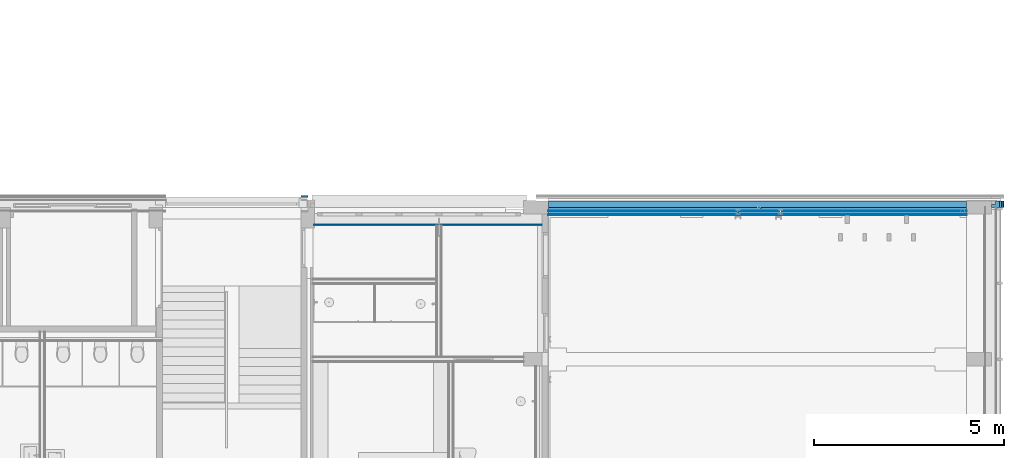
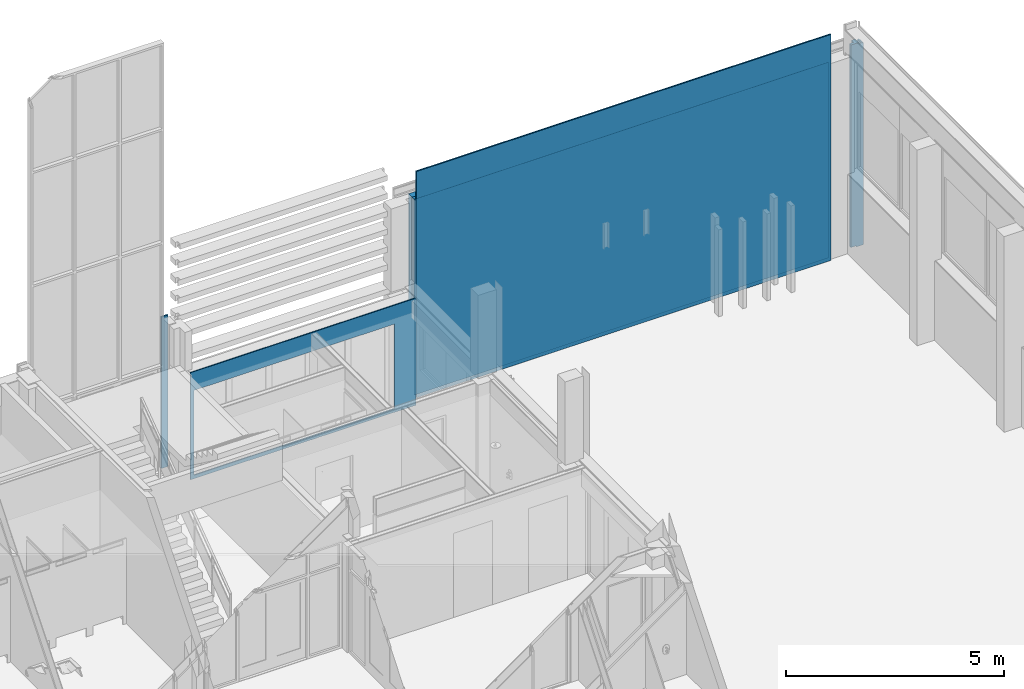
# One storey, part 82 of 109: 9 building element parts, 1 opening, 4 elements without a shape of their own.
"""IFC2X3 building model written with IfcOpenShell, lengths in millimetres."""

from ifc_helpers import new_model, entity, si_unit, converted_unit, derived_unit, money_unit, direction, frame, origin_with_axes, place, context, subcontext, project, spatial, faceted_brep, material, type_object, element, aggregate, save


model = new_model("IFC2X3")

# Units and contexts
model_context = context("Model", 3, precision=0.01, world=origin_with_axes(), true_north=direction((0.0, 1.0)))
body_context = subcontext(model_context, "Body", "Model", "MODEL_VIEW")
ifc_project = project(units=[si_unit("LENGTHUNIT", "METRE", prefix="MILLI"), si_unit("AREAUNIT", "SQUARE_METRE"), si_unit("VOLUMEUNIT", "CUBIC_METRE"), converted_unit("PLANEANGLEUNIT", "DEGREE", entity("IfcPlaneAngleMeasure", 0.0174532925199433), si_unit("PLANEANGLEUNIT", "RADIAN"), dimensions=[0, 0, 0, 0, 0, 0, 0]), money_unit("EUR"), converted_unit("TIMEUNIT", "Year", entity("IfcTimeMeasure", 31557600.0), si_unit("TIMEUNIT", "SECOND"), dimensions=[0, 0, 1, 0, 0, 0, 0]), si_unit("MASSUNIT", "GRAM", prefix="KILO"), si_unit("THERMODYNAMICTEMPERATUREUNIT", "DEGREE_CELSIUS"), si_unit("LUMINOUSINTENSITYUNIT", "LUMEN"), si_unit("ENERGYUNIT", "JOULE", prefix="MEGA"), derived_unit("THERMALCONDUCTANCEUNIT", [(si_unit("POWERUNIT", "WATT"), 1), (si_unit("LENGTHUNIT", "METRE"), -1), (si_unit("THERMODYNAMICTEMPERATUREUNIT", "KELVIN"), -1)]), derived_unit("SPECIFICHEATCAPACITYUNIT", [(si_unit("ENERGYUNIT", "JOULE"), 1), (si_unit("MASSUNIT", "GRAM", prefix="KILO"), -1), (si_unit("THERMODYNAMICTEMPERATUREUNIT", "KELVIN"), -1)]), derived_unit("MASSDENSITYUNIT", [(si_unit("MASSUNIT", "GRAM", prefix="KILO"), 1), (si_unit("VOLUMEUNIT", "CUBIC_METRE"), -1)])], contexts=[model_context])

# Site, building, storey
site_placement = place(None, origin_with_axes())
site = spatial("IfcSite", under=ifc_project, at=site_placement, Name="<site naam>", CompositionType="ELEMENT")
building_placement = place(site_placement, origin_with_axes())
building = spatial("IfcBuilding", under=site, at=building_placement, Name="<Naam gebouw>", CompositionType="ELEMENT")
storey_placement = place(building_placement, origin_with_axes())
storey = spatial("IfcBuildingStorey", under=building, at=storey_placement, Name="00 Begane grond", CompositionType="ELEMENT", Elevation=0.0)

# Wall, building element part
wall_type_1 = type_object("IfcWallType", Name="metselwerk-lucht-kalkzandsteen 335 335", PredefinedType="NOTDEFINED")
wall_1_placement = place(storey_placement, frame((70310.0, 20334.99999999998, -30.0), z_axis=(0.0, 0.0, 1.0), x_axis=(-1.0, 0.0, 0.0)))
wall_1 = element("IfcWall", 1, at=wall_1_placement, inside=storey, type_object=wall_type_1, Name="21_Binnenwand_metselwerk-lucht-kalkzandsteen")
ifc_material_1 = material(Name="kalkzandsteen C")
building_element_part_1_placement = place(wall_1_placement, origin_with_axes())
building_element_part_1 = element("IfcBuildingElementPart", 2, at=building_element_part_1_placement, material=ifc_material_1, Name="kalkzandsteen C", context=body_context, shape_type="Brep", body=[
    faceted_brep([(984.9999999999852, 175.0000000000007, 30.0), (11984.99999999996, 175.0000000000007, 30.0), (11984.99999999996, 175.0000000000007, 5524.999999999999), (984.9999999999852, 175.0000000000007, 5524.999999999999), (984.9999999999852, 335.0000000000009, 30.0), (11984.99999999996, 335.0000000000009, 30.0), (11984.99999999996, 335.0000000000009, 5524.999999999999), (984.9999999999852, 335.0000000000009, 5524.999999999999)], [[[0, 1, 2, 3]], [[4, 5, 1, 0]], [[5, 6, 2, 1]], [[3, 2, 6, 7]], [[4, 0, 3, 7]], [[7, 6, 5, 4]]]),
    faceted_brep([(224.9999999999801, 267.7000000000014, 30.0), (334.9999999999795, 267.7000000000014, 30.0), (334.9999999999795, 267.7000000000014, 5715.000003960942), (224.9999999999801, 267.7000000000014, 5715.000003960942), (184.9999999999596, 335.0000000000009, 30.0), (334.9999999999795, 335.0000000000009, 30.0), (224.9999999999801, 175.0000000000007, 30.0), (184.9999999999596, 175.0000000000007, 30.0), (334.9999999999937, 335.0000000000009, 5715.000003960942), (224.9999999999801, 175.0000000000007, 5715.000003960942), (120.0000003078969, 335.0000000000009, 5715.000003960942), (120.0000003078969, 175.0000000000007, 5715.000003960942), (184.9999999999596, 335.0000000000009, 0.0), (0.0, 335.0000000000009, 0.0), (2.420890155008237e-06, 335.0000000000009, 5665.000062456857), (30.00000472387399, 335.0000000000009, 5665.000062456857), (30.00000472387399, 335.0000000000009, 5694.999985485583), (59.99999570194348, 335.0000000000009, 5694.999985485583), (59.99999570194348, 335.0000000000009, 5665.000062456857), (120.0000003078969, 335.0000000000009, 5665.000062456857), (120.0000003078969, 175.0000000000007, 5665.000062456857), (59.99999570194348, 175.0000000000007, 5665.000062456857), (59.99999570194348, 175.0000000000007, 5694.999985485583), (30.00000472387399, 175.0000000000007, 5694.999985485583), (30.00000472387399, 175.0000000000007, 5665.000062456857), (2.420890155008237e-06, 175.0000000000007, 5665.000062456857), (0.0, 175.0000000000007, 0.0), (184.9999999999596, 175.0000000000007, 0.0)], [[[0, 1, 2, 3]], [[4, 5, 1, 0, 6, 7]], [[2, 1, 5, 8]], [[9, 3, 2, 8, 10, 11]], [[0, 3, 9, 6]], [[8, 5, 4, 12, 13, 14, 15, 16, 17, 18, 19, 10]], [[7, 6, 9, 11, 20, 21, 22, 23, 24, 25, 26, 27]], [[27, 12, 4, 7]], [[10, 19, 20, 11]], [[27, 26, 13, 12]], [[13, 26, 25, 14]], [[24, 15, 14, 25]], [[16, 15, 24, 23]], [[17, 16, 23, 22]], [[18, 17, 22, 21]], [[19, 18, 21, 20]]]),
])
aggregate(wall_1, [building_element_part_1])

# Wall, opening, building element parts
wall_type_2 = type_object("IfcWallType", Name="HSB_285 zonder gevelbeplating 313", PredefinedType="NOTDEFINED")
wall_2_placement = place(storey_placement, frame((52175.00000000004, 19840.00019144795, 0.0), z_axis=(0.0, 0.0, 1.0), x_axis=(1.0, 0.0, 0.0)))
wall_2 = element("IfcWall", 3, at=wall_2_placement, inside=storey, type_object=wall_type_2, Name="22_Binnenwand_HSB_285")
opening_placement = place(wall_2_placement, frame((2750.436403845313, 0.0, 102.5), z_axis=(0.0, 0.0, 1.0), x_axis=(1.0, 0.0, 0.0)))
element("IfcOpeningElement", 4, at=opening_placement, cuts=wall_2, Name="22_BU-B-02_305", context=body_context, shape_type="Brep", body=[
    faceted_brep([(-2664.461586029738, -313.5000000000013, 2377.0), (-2664.461586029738, -313.5000000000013, 0.0), (2664.461586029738, -313.5000000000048, 0.0), (2664.461586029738, -313.5000000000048, 2377.0), (-2664.461586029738, 1.000000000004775, 2377.0), (-2664.461586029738, 1.000000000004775, 0.0), (2664.461586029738, 1.000000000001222, 0.0), (2664.461586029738, 1.000000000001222, 2377.0)], [[[0, 1, 2, 3]], [[4, 5, 1, 0]], [[5, 6, 2, 1]], [[6, 7, 3, 2]], [[7, 4, 0, 3]], [[6, 5, 4, 7]]]),
])
ifc_material_2 = material(Name="hout_OSB")
building_element_part_2_placement = place(wall_2_placement, origin_with_axes())
building_element_part_2 = element("IfcBuildingElementPart", 5, at=building_element_part_2_placement, material=ifc_material_2, Name="hout_OSB", context=body_context, shape_type="Brep", body=[
    faceted_brep([(3218.299999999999, -285.0000000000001, 2.999999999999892), (-3.229978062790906e-05, -285.0000000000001, 2.999999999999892), (0.0, -285.0000000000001, 3008.0), (5982.782844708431, -285.0000000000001, 3008.0), (5982.782844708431, -285.0000000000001, 0.0), (5414.897989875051, -285.0000000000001, 0.0), (5414.897989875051, -285.0000000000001, 2.999999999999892), (3351.698004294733, -285.0000000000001, 2.999999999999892), (3351.698004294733, -285.0000000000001, 0.0), (3218.299999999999, -285.0000000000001, 0.0), (3218.299999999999, -300.0000000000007, 2.999999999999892), (-3.229978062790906e-05, -300.0000000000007, 2.999999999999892), (0.0, -300.0000000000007, 3008.0), (5982.782844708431, -300.0000000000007, 3008.0), (5982.782844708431, -300.0000000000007, 0.0), (5414.897989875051, -300.0000000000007, 0.0), (5414.897989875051, -300.0000000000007, 2.999999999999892), (3351.698004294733, -300.0000000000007, 2.999999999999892), (3351.698004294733, -300.0000000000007, 0.0), (3218.299999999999, -300.0000000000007, 0.0)], [[[0, 1, 2, 3, 4, 5, 6, 7, 8, 9]], [[0, 10, 11, 1]], [[1, 11, 12, 2]], [[12, 13, 3, 2]], [[3, 13, 14, 4]], [[15, 5, 4, 14]], [[6, 5, 15, 16]], [[7, 6, 16, 17]], [[8, 7, 17, 18]], [[19, 9, 8, 18]], [[0, 9, 19, 10]], [[10, 19, 18, 17, 16, 15, 14, 13, 12, 11]]]),
])
ifc_material_3 = material(Name="gipsplaat")
building_element_part_3_placement = place(wall_2_placement, origin_with_axes())
building_element_part_3 = element("IfcBuildingElementPart", 6, at=building_element_part_3_placement, material=ifc_material_3, Name="gipsplaat", context=body_context, shape_type="Brep", body=[
    faceted_brep([(3218.299999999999, -300.0000000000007, 2.999999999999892), (-3.229978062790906e-05, -300.0000000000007, 2.999999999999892), (0.0, -300.0000000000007, 3008.0), (5982.782844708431, -300.0000000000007, 3008.0), (5982.782844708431, -300.0000000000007, 0.0), (5414.897989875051, -300.0000000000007, 0.0), (5414.897989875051, -300.0000000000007, 2.999999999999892), (3351.698004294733, -300.0000000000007, 2.999999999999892), (3351.698004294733, -300.0000000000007, 0.0), (3218.299999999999, -300.0000000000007, 0.0), (3218.299999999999, -312.5, 2.999999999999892), (-3.229978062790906e-05, -312.5, 2.999999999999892), (0.0, -312.5, 3008.0), (5982.782844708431, -312.5, 3008.0), (5982.782844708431, -312.5, 0.0), (5414.897989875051, -312.5, 0.0), (5414.897989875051, -312.5, 2.999999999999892), (3351.698004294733, -312.5, 2.999999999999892), (3351.698004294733, -312.5, 0.0), (3218.299999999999, -312.5, 0.0)], [[[0, 1, 2, 3, 4, 5, 6, 7, 8, 9]], [[0, 10, 11, 1]], [[1, 11, 12, 2]], [[12, 13, 3, 2]], [[3, 13, 14, 4]], [[15, 5, 4, 14]], [[6, 5, 15, 16]], [[7, 6, 16, 17]], [[8, 7, 17, 18]], [[19, 9, 8, 18]], [[0, 9, 19, 10]], [[10, 19, 18, 17, 16, 15, 14, 13, 12, 11]]]),
])
aggregate(wall_2, [building_element_part_2, building_element_part_3])

# Wall, building element parts
wall_type_3 = type_object("IfcWallType", Name="therm. voorzetwand 215mm 215", PredefinedType="NOTDEFINED")
wall_3_placement = place(storey_placement, frame((58325.00000000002, 19999.99999240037, 0.0), z_axis=(0.0, 0.0, 1.0), x_axis=(1.0, -5.486341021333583e-09, 0.0)))
wall_3 = element("IfcWall", 7, at=wall_3_placement, inside=storey, type_object=wall_type_3, Name="22_Binnenwand_therm.")
ifc_material_4 = material(Name="isolatie_steenwol")
building_element_part_4_placement = place(wall_3_placement, origin_with_axes())
building_element_part_4 = element("IfcBuildingElementPart", 8, at=building_element_part_4_placement, material=ifc_material_4, Name="isolatie_steenwol", context=body_context, shape_type="Brep", body=[
    faceted_brep([(5593.000000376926, 3.068510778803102e-05, 5494.999999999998), (11000.00011444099, 6.034975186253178e-05, 5494.999999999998), (11000.00011444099, 6.034975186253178e-05, 0.0), (5593.000000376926, 3.068510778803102e-05, 0.0), (11000.00011493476, -89.999939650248, 5494.999999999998), (5593.000000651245, -49.99996182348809, 5494.999999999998), (5584.999998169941, -49.99996192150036, 5494.999999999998), (5584.999997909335, -2.499961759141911, 5494.999999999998), (5505.000002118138, -2.499962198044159, 5494.999999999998), (5505.000002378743, -49.99996236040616, 5494.999999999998), (5496.99999989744, -49.9999623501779, 5494.999999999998), (5496.999999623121, 3.015841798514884e-05, 5494.999999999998), (0.0, 0.0, 5494.999999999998), (4.937703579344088e-07, -89.99999999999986, 5494.999999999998), (4981.750000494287, -89.9999726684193, 5494.999999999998), (4981.750000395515, -71.99727452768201, 5494.999999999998), (4925.000000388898, -71.99727483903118, 5494.999999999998), (4925.000000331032, -60.99727473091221, 5494.999999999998), (5045.000000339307, -60.99727407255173, 5494.999999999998), (5045.000000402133, -71.9972741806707, 5494.999999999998), (4988.250000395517, -71.99727449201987, 5494.999999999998), (4988.250000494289, -89.99997263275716, 5494.999999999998), (6101.750000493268, -89.99996652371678, 5494.999999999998), (6101.750000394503, -71.99726838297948, 5494.999999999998), (6045.000000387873, -71.99726869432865, 5494.999999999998), (6045.000000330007, -60.99726858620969, 5494.999999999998), (6165.000000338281, -60.99726792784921, 5494.999999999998), (6165.000000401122, -71.99726803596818, 5494.999999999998), (6108.250000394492, -71.99726834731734, 5494.999999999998), (6108.250000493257, -89.99996648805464, 5494.999999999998), (11000.00011493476, -89.999939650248, 0.0), (5584.999998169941, -49.99996192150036, 0.0), (5593.000000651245, -49.99996182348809, 0.0), (6108.250000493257, -89.99996648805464, 0.0), (6108.250000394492, -71.99726834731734, 0.0), (6165.000000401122, -71.99726803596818, 0.0), (6165.000000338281, -60.99726792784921, 0.0), (6045.000000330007, -60.99726858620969, 0.0), (6045.000000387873, -71.99726869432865, 0.0), (6101.750000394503, -71.99726838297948, 0.0), (6101.750000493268, -89.99996652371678, 0.0), (4988.250000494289, -89.99997263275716, 0.0), (4988.250000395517, -71.99727449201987, 0.0), (5045.000000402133, -71.9972741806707, 0.0), (5045.000000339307, -60.99727407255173, 0.0), (4925.000000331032, -60.99727473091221, 0.0), (4925.000000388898, -71.99727483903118, 0.0), (4981.750000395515, -71.99727452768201, 0.0), (4981.750000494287, -89.9999726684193, 0.0), (4.937703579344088e-07, -89.99999999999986, 0.0), (0.0, 0.0, 0.0), (5496.999999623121, 3.015841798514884e-05, 0.0), (5496.99999989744, -49.9999623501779, 0.0), (5505.000002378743, -49.99996236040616, 0.0), (5505.000002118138, -2.499962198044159, 0.0), (5584.999997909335, -2.499961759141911, 0.0)], [[[0, 1, 2, 3]], [[4, 1, 0, 5, 6, 7, 8, 9, 10, 11, 12, 13, 14, 15, 16, 17, 18, 19, 20, 21, 22, 23, 24, 25, 26, 27, 28, 29]], [[1, 4, 30, 2]], [[31, 32, 3, 2, 30, 33, 34, 35, 36, 37, 38, 39, 40, 41, 42, 43, 44, 45, 46, 47, 48, 49, 50, 51, 52, 53, 54, 55]], [[5, 0, 3, 32]], [[6, 5, 32, 31]], [[7, 6, 31, 55]], [[8, 7, 55, 54]], [[9, 8, 54, 53]], [[10, 9, 53, 52]], [[11, 10, 52, 51]], [[12, 11, 51, 50]], [[13, 12, 50, 49]], [[14, 13, 49, 48]], [[15, 14, 48, 47]], [[16, 15, 47, 46]], [[17, 16, 46, 45]], [[18, 17, 45, 44]], [[19, 18, 44, 43]], [[20, 19, 43, 42]], [[21, 20, 42, 41]], [[22, 21, 41, 40]], [[23, 22, 40, 39]], [[24, 23, 39, 38]], [[25, 24, 38, 37]], [[26, 25, 37, 36]], [[27, 26, 36, 35]], [[28, 27, 35, 34]], [[29, 28, 34, 33]], [[4, 29, 33, 30]]]),
])
building_element_part_5_placement = place(wall_3_placement, origin_with_axes())
building_element_part_5 = element("IfcBuildingElementPart", 9, at=building_element_part_5_placement, material=ifc_material_4, Name="isolatie_steenwol", context=body_context, shape_type="Brep", body=[
    faceted_brep([(6108.250000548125, -99.99996648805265, 5494.999999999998), (11000.00011498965, -99.999939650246, 5494.999999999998), (11000.00011498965, -99.999939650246, 0.0), (6108.250000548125, -99.99996648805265, 0.0), (11000.00011540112, -174.999932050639, 5494.999999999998), (6108.250000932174, -170.0003247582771, 5494.999999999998), (6165.000000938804, -170.0003244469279, 5494.999999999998), (6165.000000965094, -174.9999585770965, 5494.999999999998), (11000.00011540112, -174.999932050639, 6345.0), (11000.00011548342, -189.9999396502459, 6345.0), (11000.00011548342, -189.9999396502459, 0.0), (6045.000000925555, -170.0003251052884, 0.0), (6045.000000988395, -181.0003252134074, 0.0), (6165.000000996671, -181.0003245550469, 0.0), (6165.000000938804, -170.0003244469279, 0.0), (6108.250000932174, -170.0003247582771, 0.0), (1.042401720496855e-06, -190.0000000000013, 0.0), (5.486313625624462e-07, -100.0000000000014, 0.0), (4981.750000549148, -99.99997266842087, 0.0), (4981.750000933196, -170.0003309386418, 0.0), (4925.00000092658, -170.0003312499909, 0.0), (4925.000000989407, -181.0003313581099, 0.0), (5045.000000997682, -181.0003306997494, 0.0), (5045.000000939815, -170.0003305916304, 0.0), (4988.250000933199, -170.0003309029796, 0.0), (4988.250000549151, -99.99997263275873, 0.0), (6101.750000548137, -99.99996652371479, 0.0), (6101.750000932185, -170.0003247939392, 0.0), (6165.000000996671, -181.0003245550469, 5494.999999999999), (9.601066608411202e-07, -174.9999924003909, 6345.0), (6045.000000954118, -174.999959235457, 5494.999999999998), (5045.000000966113, -174.999964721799, 5494.999999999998), (4925.000000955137, -174.9999653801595, 5494.999999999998), (9.601066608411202e-07, -174.9999924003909, 5494.999999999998), (1.042401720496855e-06, -190.0000000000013, 6345.0), (6045.000000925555, -170.0003251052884, 5494.999999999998), (6045.000000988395, -181.0003252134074, 5494.999999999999), (6045.000000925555, -170.0003251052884, 3306.999992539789), (6045.000000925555, -170.0003251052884, 3487.000007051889), (5.486313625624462e-07, -99.99999999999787, 5494.999999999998), (4981.750000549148, -99.99997266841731, 5494.999999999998), (4981.750000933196, -170.0003309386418, 5494.999999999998), (4925.00000092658, -170.0003312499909, 5494.999999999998), (4925.000000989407, -181.0003313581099, 5494.999999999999), (5045.000000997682, -181.0003306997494, 5494.999999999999), (5045.000000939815, -170.0003305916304, 5494.999999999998), (5045.000000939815, -170.0003305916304, 3487.000007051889), (5045.000000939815, -170.0003305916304, 3306.99999253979), (4988.250000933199, -170.0003309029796, 3306.999992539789), (4988.250000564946, -99.99992534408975, 3306.999992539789), (6101.750000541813, -99.99991923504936, 3306.999992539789), (6101.750000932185, -170.0003247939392, 3306.999992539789), (6101.750000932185, -170.0003247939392, 5494.999999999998), (6101.750000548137, -99.99996652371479, 5494.999999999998), (4988.250000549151, -99.99997263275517, 5494.999999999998), (4988.250000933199, -170.0003309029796, 5494.999999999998), (6101.750000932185, -170.0003247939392, 3487.000007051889), (4988.250000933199, -170.0003309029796, 3487.000007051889), (6101.750000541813, -99.99991923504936, 3487.000007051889), (4988.250000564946, -99.99992534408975, 3487.000007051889)], [[[0, 1, 2, 3]], [[4, 1, 0, 5, 6, 7]], [[4, 8, 9, 10, 2, 1]], [[11, 12, 13, 14, 15, 3, 2, 10, 16, 17, 18, 19, 20, 21, 22, 23, 24, 25, 26, 27]], [[5, 0, 3, 15]], [[6, 5, 15, 14]], [[7, 6, 14, 13, 28]], [[29, 8, 4, 7, 30, 31, 32, 33]], [[8, 29, 34, 9]], [[9, 34, 16, 10]], [[35, 30, 36, 12, 11, 37, 38]], [[28, 13, 12, 36]], [[33, 39, 17, 16, 34, 29]], [[39, 40, 18, 17]], [[40, 41, 19, 18]], [[41, 42, 20, 19]], [[42, 32, 43, 21, 20]], [[44, 22, 21, 43]], [[31, 45, 46, 47, 23, 22, 44]], [[23, 47, 48, 24]], [[24, 48, 49, 25]], [[49, 50, 26, 25]], [[27, 26, 50, 51]], [[27, 51, 37, 11]], [[30, 7, 28, 36]], [[52, 53, 54, 55, 45, 31, 30, 35]], [[32, 31, 44, 43]], [[41, 40, 39, 33, 32, 42]], [[46, 38, 37, 47]], [[52, 35, 38, 56]], [[45, 55, 57, 46]], [[37, 51, 50, 49, 48, 47]], [[53, 52, 56, 58]], [[54, 53, 58, 59]], [[55, 54, 59, 57]], [[58, 56, 38, 46, 57, 59]]]),
    faceted_brep([(6101.75000086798, -162.0003247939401, 3476.000007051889), (6101.750000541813, -100.0000003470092, 3476.000007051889), (4988.250000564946, -100.0000064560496, 3476.000007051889), (4988.250000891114, -162.0003309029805, 3476.000007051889), (6101.750000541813, -100.0000003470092, 3317.999992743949), (6101.75000086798, -162.0003247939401, 3317.999992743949), (4988.250000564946, -100.0000064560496, 3317.999992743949), (4988.250000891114, -162.0003309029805, 3317.999992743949)], [[[0, 1, 2, 3]], [[4, 1, 0, 5]], [[1, 4, 6, 2]], [[3, 2, 6, 7]], [[5, 0, 3, 7]], [[4, 5, 7, 6]]]),
])
ifc_material_5 = material(Name="metal_stud")
building_element_part_6_placement = place(wall_3_placement, origin_with_axes())
building_element_part_6 = element("IfcBuildingElementPart", 10, at=building_element_part_6_placement, material=ifc_material_5, Name="metal_stud", context=body_context, shape_type="Brep", body=[
    faceted_brep([(4.937703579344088e-07, -89.99999999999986, 5494.999999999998), (4981.750000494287, -89.9999726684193, 5494.999999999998), (4981.750000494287, -89.9999726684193, 0.0), (4.937703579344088e-07, -89.99999999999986, 0.0), (4981.750000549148, -99.99997266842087, 5494.999999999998), (5.486313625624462e-07, -99.99999999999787, 5494.999999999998), (4981.750000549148, -99.99997266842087, 0.0), (5.486313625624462e-07, -100.0000000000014, 0.0)], [[[0, 1, 2, 3]], [[4, 1, 0, 5]], [[1, 4, 6, 2]], [[3, 2, 6, 7]], [[5, 0, 3, 7]], [[4, 5, 7, 6]]]),
    faceted_brep([(4988.250000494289, -89.99997263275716, 5494.999999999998), (6101.750000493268, -89.99996652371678, 5494.999999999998), (6101.750000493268, -89.99996652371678, 0.0), (4988.250000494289, -89.99997263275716, 0.0), (6101.750000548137, -99.99996652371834, 5494.999999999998), (4988.250000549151, -99.99997263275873, 5494.999999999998), (6101.750000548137, -99.99996652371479, 0.0), (4988.250000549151, -99.99997263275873, 0.0)], [[[0, 1, 2, 3]], [[4, 1, 0, 5]], [[1, 4, 6, 2]], [[3, 2, 6, 7]], [[5, 0, 3, 7]], [[4, 5, 7, 6]]]),
    faceted_brep([(6108.250000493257, -89.99996648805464, 5494.999999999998), (11000.00011493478, -89.999939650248, 5494.999999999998), (11000.00011493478, -89.999939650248, 0.0), (6108.250000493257, -89.99996648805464, 0.0), (11000.00011498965, -99.999939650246, 5494.999999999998), (6108.250000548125, -99.9999664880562, 5494.999999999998), (11000.00011498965, -99.999939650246, 0.0), (6108.250000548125, -99.99996648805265, 0.0)], [[[0, 1, 2, 3]], [[4, 1, 0, 5]], [[1, 4, 6, 2]], [[6, 7, 3, 2]], [[5, 0, 3, 7]], [[4, 5, 7, 6]]]),
])
building_element_part_7_placement = place(wall_3_placement, origin_with_axes())
building_element_part_7 = element("IfcBuildingElementPart", 11, at=building_element_part_7_placement, material=ifc_material_3, Name="gipsplaat", context=body_context, shape_type="Brep", body=[
    faceted_brep([(11000.00011562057, -214.999939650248, 6345.0), (11000.00011555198, -202.4999396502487, 6345.0), (1.11098330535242e-06, -202.5000000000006, 6345.0), (1.179564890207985e-06, -214.9999999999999, 6345.0), (11000.00011562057, -214.999939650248, 0.0), (11000.00011555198, -202.4999396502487, 0.0), (1.11098330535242e-06, -202.5000000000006, 0.0), (1.179564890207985e-06, -214.9999999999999, 0.0)], [[[0, 1, 2, 3]], [[0, 4, 5, 1]], [[1, 5, 6, 2]], [[3, 2, 6, 7]], [[4, 0, 3, 7]], [[5, 4, 7, 6]]]),
])
building_element_part_8_placement = place(wall_3_placement, origin_with_axes())
building_element_part_8 = element("IfcBuildingElementPart", 12, at=building_element_part_8_placement, material=ifc_material_3, Name="gipsplaat", context=body_context, shape_type="Brep", body=[
    faceted_brep([(11000.00011555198, -202.4999396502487, 6345.0), (11000.0001154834, -189.9999396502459, 6345.0), (1.042401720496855e-06, -190.0000000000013, 6345.0), (1.11098330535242e-06, -202.5000000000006, 6345.0), (11000.00011555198, -202.4999396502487, 0.0), (11000.0001154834, -189.9999396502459, 0.0), (1.042401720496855e-06, -190.0000000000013, 0.0), (1.11098330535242e-06, -202.5000000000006, 0.0)], [[[0, 1, 2, 3]], [[0, 4, 5, 1]], [[1, 5, 6, 2]], [[3, 2, 6, 7]], [[4, 0, 3, 7]], [[5, 4, 7, 6]]]),
])
aggregate(wall_3, [building_element_part_4, building_element_part_5, building_element_part_6, building_element_part_7, building_element_part_8])

# Wall, building element part
wall_type_4 = type_object("IfcWallType", Name="HSB_285 gevelbeplating 420", PredefinedType="NOTDEFINED")
wall_4_placement = place(storey_placement, frame((51825.00000000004, 20297.99999999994, 0.0), z_axis=(0.0, 0.0, 1.0), x_axis=(1.0, 0.0, 0.0)))
wall_4 = element("IfcWall", 13, at=wall_4_placement, inside=storey, type_object=wall_type_4, Name="21_Binnenwand_HSB_285")
ifc_material_6 = material(Name="metaal - Aluminium gevelplaat")
building_element_part_9_placement = place(wall_4_placement, origin_with_axes())
building_element_part_9 = element("IfcBuildingElementPart", 14, at=building_element_part_9_placement, material=ifc_material_6, Name="metaal - Aluminium gevelplaat", context=body_context, shape_type="Brep", body=[
    faceted_brep([(174.9999999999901, -39.99999999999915, 4250.0), (174.9999999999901, 0.0, 4250.0), (0.0, 0.0, 4250.0), (0.0, -39.99999999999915, 4250.0), (174.9999999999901, -39.99999999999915, 0.0), (174.9999999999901, 0.0, 0.0), (0.0, 0.0, 0.0), (0.0, -39.99999999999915, 0.0)], [[[0, 1, 2, 3]], [[0, 4, 5, 1]], [[1, 5, 6, 2]], [[3, 2, 6, 7]], [[4, 0, 3, 7]], [[5, 4, 7, 6]]]),
])
aggregate(wall_4, [building_element_part_9])

save(model, "model.ifc")
